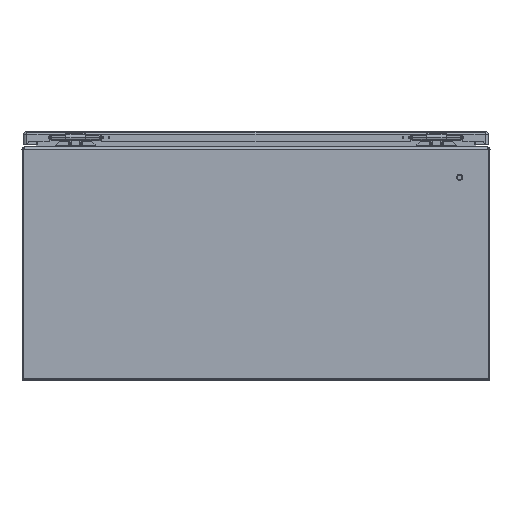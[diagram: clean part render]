
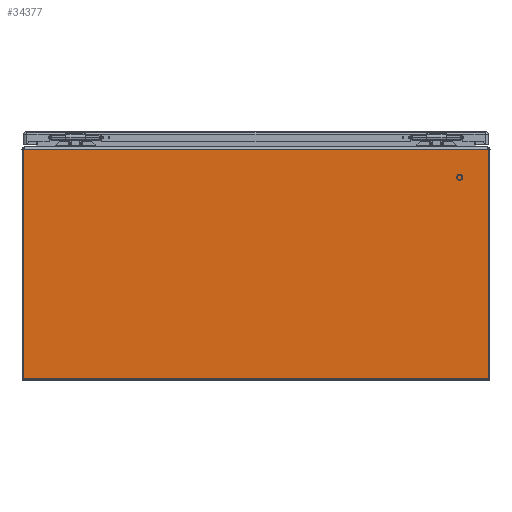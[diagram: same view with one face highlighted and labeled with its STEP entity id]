
A CAD part, left-side view. The second image highlights one B-rep face of the part: STEP entity #34377.
In plain terms, the highlighted planar face has unit normal (-1, 0, 0).
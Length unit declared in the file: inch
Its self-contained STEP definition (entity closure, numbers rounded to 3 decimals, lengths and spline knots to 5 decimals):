
#3876 = ORIENTED_EDGE ( 'NONE', *, *, #27277, .T. ) ;
#3877 = ORIENTED_EDGE ( 'NONE', *, *, #27307, .F. ) ;
#3878 = ORIENTED_EDGE ( 'NONE', *, *, #27204, .T. ) ;
#3879 = ORIENTED_EDGE ( 'NONE', *, *, #27313, .T. ) ;
#9396 = DIRECTION ( 'NONE',  ( 0., -1., 0. ) ) ;
#9403 = CARTESIAN_POINT ( 'NONE',  ( -15., 162., 0.106 ) ) ;
#9404 = DIRECTION ( 'NONE',  ( 0., -1., 0. ) ) ;
#9405 = CARTESIAN_POINT ( 'NONE',  ( -15., 162., 11.855 ) ) ;
#9448 = DIRECTION ( 'NONE',  ( 0., 0., 1. ) ) ;
#9449 = CARTESIAN_POINT ( 'NONE',  ( -15., -11.93793, 11.855 ) ) ;
#9594 = DIRECTION ( 'NONE',  ( 0., 0., -1. ) ) ;
#9596 = CARTESIAN_POINT ( 'NONE',  ( -15., 11.93793, 11.855 ) ) ;
#10962 = VECTOR ( 'NONE', #9594, 39.37008 ) ;
#10966 = LINE ( 'NONE', #9596, #10962 ) ;
#11027 = LINE ( 'NONE', #9449, #11030 ) ;
#11030 = VECTOR ( 'NONE', #9448, 39.37008 ) ;
#11048 = LINE ( 'NONE', #9405, #11054 ) ;
#11053 = LINE ( 'NONE', #9403, #11062 ) ;
#11054 = VECTOR ( 'NONE', #9404, 39.37008 ) ;
#11062 = VECTOR ( 'NONE', #9396, 39.37008 ) ;
#15895 = FACE_OUTER_BOUND ( 'NONE', #19125, .T. ) ;
#19125 = EDGE_LOOP ( 'NONE', ( #3876, #3877, #3878, #3879 ) ) ;
#21872 = CARTESIAN_POINT ( 'NONE',  ( -15., 11.93793, 11.855 ) ) ;
#22495 = CARTESIAN_POINT ( 'NONE',  ( -15., 11.93793, 0.106 ) ) ;
#22847 = VERTEX_POINT ( 'NONE', #21872 ) ;
#22867 = VERTEX_POINT ( 'NONE', #22495 ) ;
#23079 = VERTEX_POINT ( 'NONE', #32866 ) ;
#23254 = VERTEX_POINT ( 'NONE', #33087 ) ;
#27187 = AXIS2_PLACEMENT_3D ( 'NONE', #28841, #28850, #28851 ) ;
#27204 = EDGE_CURVE ( 'NONE', #22847, #22867, #10966, .T. ) ;
#27277 = EDGE_CURVE ( 'NONE', #23079, #23254, #11027, .T. ) ;
#27307 = EDGE_CURVE ( 'NONE', #22847, #23254, #11048, .T. ) ;
#27313 = EDGE_CURVE ( 'NONE', #22867, #23079, #11053, .T. ) ;
#28841 = CARTESIAN_POINT ( 'NONE',  ( -15., 162., 11.855 ) ) ;
#28845 = PLANE ( 'NONE',  #27187 ) ;
#28850 = DIRECTION ( 'NONE',  ( -1., 0., 0. ) ) ;
#28851 = DIRECTION ( 'NONE',  ( 0., 0., -1. ) ) ;
#32866 = CARTESIAN_POINT ( 'NONE',  ( -15., -11.93793, 0.106 ) ) ;
#33087 = CARTESIAN_POINT ( 'NONE',  ( -15., -11.93793, 11.855 ) ) ;
#34377 = ADVANCED_FACE ( 'NONE', ( #15895 ), #28845, .T. ) ;
